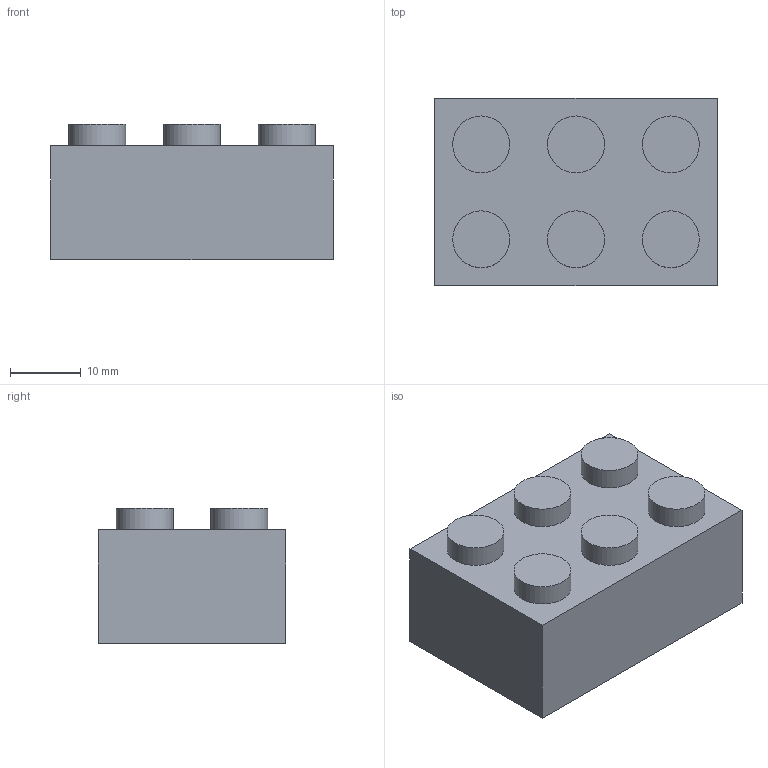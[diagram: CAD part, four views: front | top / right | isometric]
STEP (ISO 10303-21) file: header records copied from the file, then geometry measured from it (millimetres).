
FILE_DESCRIPTION(('Open CASCADE Model'),'2;1');
FILE_NAME('Open CASCADE Shape Model','2026-10-26T07:39:40',('Author'),( 'Open CASCADE'),'Open CASCADE STEP processor 7.9','Open CASCADE 7.9' ,'Unknown');
FILE_SCHEMA(('AUTOMOTIVE_DESIGN { 1 0 10303 214 1 1 1 1 }'));
Length unit declared in the file: millimetre
Products named in the file (1): Open CASCADE STEP translator 7.9 1
Bounding box: 40 x 26.55 x 19.16 mm (x, y, z)
Volume: 8988.1 mm3; surface area: 7894 mm2
Topology: 1 solids, 1 shells, 31 faces, 54 edges, 36 vertices
Faces by surface type: plane 21, cylinder 10
Full cylindrical faces by diameter (mm): 8.067 x8, 10.924 x2
Entity records: 1460 total; most frequent: DIRECTION 246, CARTESIAN_POINT 230, LINE 122, VECTOR 122, ORIENTED_EDGE 108, PCURVE 108, DEFINITIONAL_REPRESENTATION 108, EDGE_CURVE 54
